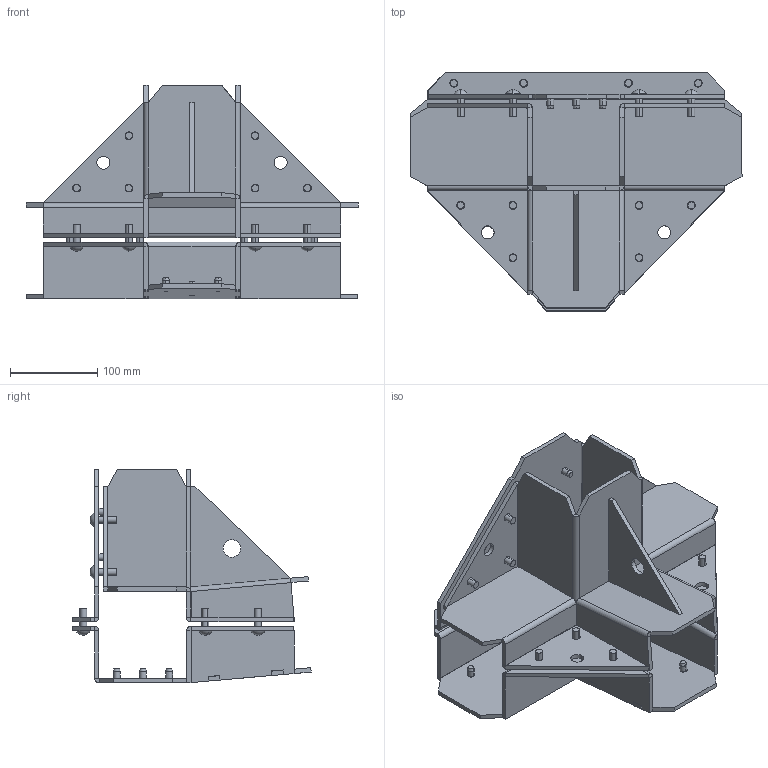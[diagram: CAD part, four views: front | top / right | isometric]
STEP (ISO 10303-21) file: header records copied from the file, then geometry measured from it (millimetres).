
FILE_DESCRIPTION (( 'STEP AP203' ), '1' );
FILE_NAME ('NEW PROJECT-3.STEP', '2025-10-06T07:56:32', ( '' ), ( '' ), 'SwSTEP 2.0', 'SolidWorks 2025', '' );
FILE_SCHEMA (( 'CONFIG_CONTROL_DESIGN' ));
Length unit declared in the file: centimetre
Products named in the file (1): NEW PROJECT-3
Bounding box: 380.5 x 273.18 x 245 mm (x, y, z)
Volume: 1536340.8 mm3; surface area: 667523.6 mm2
Topology: 37 solids, 37 shells, 750 faces, 1748 edges, 1084 vertices
Faces by surface type: plane 468, cylinder 222, torus 32, cone 24, bspline 4
Entity records: 21309 total; most frequent: CARTESIAN_POINT 3781, DIRECTION 3686, ORIENTED_EDGE 3432, EDGE_CURVE 1716, AXIS2_PLACEMENT_3D 1237, VECTOR 1212, LINE 1212, VERTEX_POINT 1084
